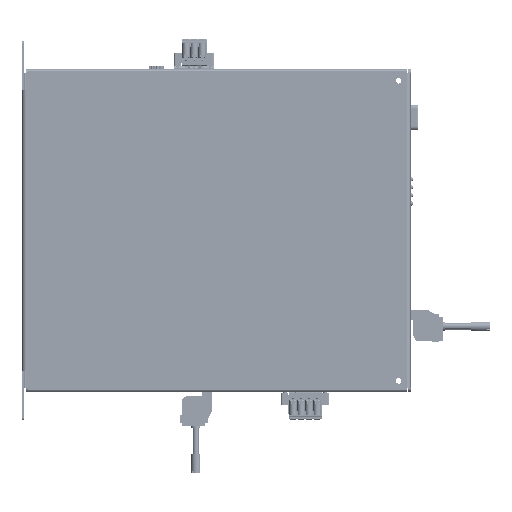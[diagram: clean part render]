
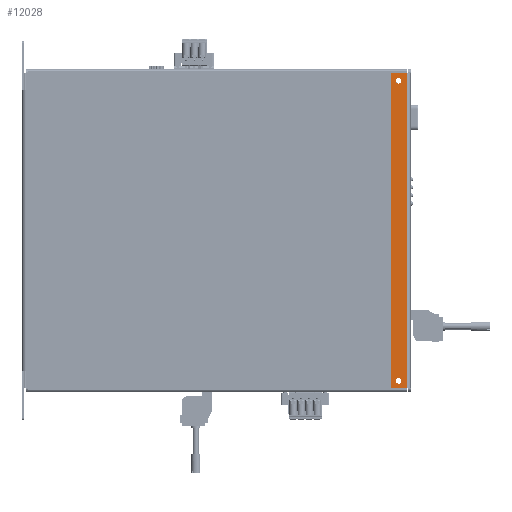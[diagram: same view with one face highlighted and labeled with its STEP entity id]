
A CAD part, left-side view. The second image highlights one B-rep face of the part: STEP entity #12028.
In plain terms, the highlighted planar face has unit normal (-1, 0, 0).
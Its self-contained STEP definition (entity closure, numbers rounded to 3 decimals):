
#7791 = CYLINDRICAL_SURFACE('',#7792,2.5);
#7792 = AXIS2_PLACEMENT_3D('',#7793,#7794,#7795);
#7793 = CARTESIAN_POINT('',(-70.5,1.,24.5));
#7794 = DIRECTION('',(0.,0.,1.));
#7795 = DIRECTION('',(0.,-1.,0.));
#11741 = VERTEX_POINT('',#11742);
#11742 = CARTESIAN_POINT('',(-73.,1.,24.5));
#11764 = EDGE_CURVE('',#11741,#11765,#11767,.T.);
#11765 = VERTEX_POINT('',#11766);
#11766 = CARTESIAN_POINT('',(-73.,1.,224.));
#11767 = SURFACE_CURVE('',#11768,(#11772,#11779),.PCURVE_S1.);
#11768 = LINE('',#11769,#11770);
#11769 = CARTESIAN_POINT('',(-73.,1.,24.5));
#11770 = VECTOR('',#11771,1.);
#11771 = DIRECTION('',(0.,0.,1.));
#11772 = PCURVE('',#7791,#11773);
#11773 = DEFINITIONAL_REPRESENTATION('',(#11774),#11778);
#11774 = LINE('',#11775,#11776);
#11775 = CARTESIAN_POINT('',(-1.571,0.));
#11776 = VECTOR('',#11777,1.);
#11777 = DIRECTION('',(-0.,1.));
#11778 = ( GEOMETRIC_REPRESENTATION_CONTEXT(2) 
PARAMETRIC_REPRESENTATION_CONTEXT() REPRESENTATION_CONTEXT('2D SPACE',''
  ) );
#11779 = PCURVE('',#11780,#11785);
#11780 = PLANE('',#11781);
#11781 = AXIS2_PLACEMENT_3D('',#11782,#11783,#11784);
#11782 = CARTESIAN_POINT('',(-73.,6.,124.25));
#11783 = DIRECTION('',(1.,0.,0.));
#11784 = DIRECTION('',(0.,0.,1.));
#11785 = DEFINITIONAL_REPRESENTATION('',(#11786),#11790);
#11786 = LINE('',#11787,#11788);
#11787 = CARTESIAN_POINT('',(-99.75,5.));
#11788 = VECTOR('',#11789,1.);
#11789 = DIRECTION('',(1.,0.));
#11790 = ( GEOMETRIC_REPRESENTATION_CONTEXT(2) 
PARAMETRIC_REPRESENTATION_CONTEXT() REPRESENTATION_CONTEXT('2D SPACE',''
  ) );
#11837 = PLANE('',#11838);
#11838 = AXIS2_PLACEMENT_3D('',#11839,#11840,#11841);
#11839 = CARTESIAN_POINT('',(-71.5,11.,224.));
#11840 = DIRECTION('',(0.,0.,1.));
#11841 = DIRECTION('',(0.,-1.,0.));
#11869 = PLANE('',#11870);
#11870 = AXIS2_PLACEMENT_3D('',#11871,#11872,#11873);
#11871 = CARTESIAN_POINT('',(-71.5,1.,24.5));
#11872 = DIRECTION('',(-0.,0.,-1.));
#11873 = DIRECTION('',(0.,1.,0.));
#11926 = PLANE('',#11927);
#11927 = AXIS2_PLACEMENT_3D('',#11928,#11929,#11930);
#11928 = CARTESIAN_POINT('',(-71.5,11.,24.5));
#11929 = DIRECTION('',(0.,1.,0.));
#11930 = DIRECTION('',(0.,0.,1.));
#11982 = CYLINDRICAL_SURFACE('',#11983,1.75);
#11983 = AXIS2_PLACEMENT_3D('',#11984,#11985,#11986);
#11984 = CARTESIAN_POINT('',(-73.,6.,29.));
#11985 = DIRECTION('',(-1.,0.,0.));
#11986 = DIRECTION('',(0.,-1.,0.));
#12017 = CYLINDRICAL_SURFACE('',#12018,1.75);
#12018 = AXIS2_PLACEMENT_3D('',#12019,#12020,#12021);
#12019 = CARTESIAN_POINT('',(-73.,6.,219.));
#12020 = DIRECTION('',(-1.,0.,0.));
#12021 = DIRECTION('',(0.,-1.,0.));
#12028 = ADVANCED_FACE('',(#12029,#12099,#12129),#11780,.F.);
#12029 = FACE_BOUND('',#12030,.F.);
#12030 = EDGE_LOOP('',(#12031,#12032,#12055,#12078));
#12031 = ORIENTED_EDGE('',*,*,#11764,.F.);
#12032 = ORIENTED_EDGE('',*,*,#12033,.T.);
#12033 = EDGE_CURVE('',#11741,#12034,#12036,.T.);
#12034 = VERTEX_POINT('',#12035);
#12035 = CARTESIAN_POINT('',(-73.,11.,24.5));
#12036 = SURFACE_CURVE('',#12037,(#12041,#12048),.PCURVE_S1.);
#12037 = LINE('',#12038,#12039);
#12038 = CARTESIAN_POINT('',(-73.,1.,24.5));
#12039 = VECTOR('',#12040,1.);
#12040 = DIRECTION('',(0.,1.,0.));
#12041 = PCURVE('',#11780,#12042);
#12042 = DEFINITIONAL_REPRESENTATION('',(#12043),#12047);
#12043 = LINE('',#12044,#12045);
#12044 = CARTESIAN_POINT('',(-99.75,5.));
#12045 = VECTOR('',#12046,1.);
#12046 = DIRECTION('',(0.,-1.));
#12047 = ( GEOMETRIC_REPRESENTATION_CONTEXT(2) 
PARAMETRIC_REPRESENTATION_CONTEXT() REPRESENTATION_CONTEXT('2D SPACE',''
  ) );
#12048 = PCURVE('',#11869,#12049);
#12049 = DEFINITIONAL_REPRESENTATION('',(#12050),#12054);
#12050 = LINE('',#12051,#12052);
#12051 = CARTESIAN_POINT('',(0.,-1.5));
#12052 = VECTOR('',#12053,1.);
#12053 = DIRECTION('',(1.,0.));
#12054 = ( GEOMETRIC_REPRESENTATION_CONTEXT(2) 
PARAMETRIC_REPRESENTATION_CONTEXT() REPRESENTATION_CONTEXT('2D SPACE',''
  ) );
#12055 = ORIENTED_EDGE('',*,*,#12056,.T.);
#12056 = EDGE_CURVE('',#12034,#12057,#12059,.T.);
#12057 = VERTEX_POINT('',#12058);
#12058 = CARTESIAN_POINT('',(-73.,11.,224.));
#12059 = SURFACE_CURVE('',#12060,(#12064,#12071),.PCURVE_S1.);
#12060 = LINE('',#12061,#12062);
#12061 = CARTESIAN_POINT('',(-73.,11.,24.5));
#12062 = VECTOR('',#12063,1.);
#12063 = DIRECTION('',(0.,0.,1.));
#12064 = PCURVE('',#11780,#12065);
#12065 = DEFINITIONAL_REPRESENTATION('',(#12066),#12070);
#12066 = LINE('',#12067,#12068);
#12067 = CARTESIAN_POINT('',(-99.75,-5.));
#12068 = VECTOR('',#12069,1.);
#12069 = DIRECTION('',(1.,0.));
#12070 = ( GEOMETRIC_REPRESENTATION_CONTEXT(2) 
PARAMETRIC_REPRESENTATION_CONTEXT() REPRESENTATION_CONTEXT('2D SPACE',''
  ) );
#12071 = PCURVE('',#11926,#12072);
#12072 = DEFINITIONAL_REPRESENTATION('',(#12073),#12077);
#12073 = LINE('',#12074,#12075);
#12074 = CARTESIAN_POINT('',(0.,-1.5));
#12075 = VECTOR('',#12076,1.);
#12076 = DIRECTION('',(1.,0.));
#12077 = ( GEOMETRIC_REPRESENTATION_CONTEXT(2) 
PARAMETRIC_REPRESENTATION_CONTEXT() REPRESENTATION_CONTEXT('2D SPACE',''
  ) );
#12078 = ORIENTED_EDGE('',*,*,#12079,.T.);
#12079 = EDGE_CURVE('',#12057,#11765,#12080,.T.);
#12080 = SURFACE_CURVE('',#12081,(#12085,#12092),.PCURVE_S1.);
#12081 = LINE('',#12082,#12083);
#12082 = CARTESIAN_POINT('',(-73.,11.,224.));
#12083 = VECTOR('',#12084,1.);
#12084 = DIRECTION('',(0.,-1.,0.));
#12085 = PCURVE('',#11780,#12086);
#12086 = DEFINITIONAL_REPRESENTATION('',(#12087),#12091);
#12087 = LINE('',#12088,#12089);
#12088 = CARTESIAN_POINT('',(99.75,-5.));
#12089 = VECTOR('',#12090,1.);
#12090 = DIRECTION('',(0.,1.));
#12091 = ( GEOMETRIC_REPRESENTATION_CONTEXT(2) 
PARAMETRIC_REPRESENTATION_CONTEXT() REPRESENTATION_CONTEXT('2D SPACE',''
  ) );
#12092 = PCURVE('',#11837,#12093);
#12093 = DEFINITIONAL_REPRESENTATION('',(#12094),#12098);
#12094 = LINE('',#12095,#12096);
#12095 = CARTESIAN_POINT('',(0.,-1.5));
#12096 = VECTOR('',#12097,1.);
#12097 = DIRECTION('',(1.,0.));
#12098 = ( GEOMETRIC_REPRESENTATION_CONTEXT(2) 
PARAMETRIC_REPRESENTATION_CONTEXT() REPRESENTATION_CONTEXT('2D SPACE',''
  ) );
#12099 = FACE_BOUND('',#12100,.F.);
#12100 = EDGE_LOOP('',(#12101));
#12101 = ORIENTED_EDGE('',*,*,#12102,.T.);
#12102 = EDGE_CURVE('',#12103,#12103,#12105,.T.);
#12103 = VERTEX_POINT('',#12104);
#12104 = CARTESIAN_POINT('',(-73.,4.25,29.));
#12105 = SURFACE_CURVE('',#12106,(#12111,#12122),.PCURVE_S1.);
#12106 = CIRCLE('',#12107,1.75);
#12107 = AXIS2_PLACEMENT_3D('',#12108,#12109,#12110);
#12108 = CARTESIAN_POINT('',(-73.,6.,29.));
#12109 = DIRECTION('',(-1.,0.,0.));
#12110 = DIRECTION('',(0.,-1.,0.));
#12111 = PCURVE('',#11780,#12112);
#12112 = DEFINITIONAL_REPRESENTATION('',(#12113),#12121);
#12113 = ( BOUNDED_CURVE() B_SPLINE_CURVE(2,(#12114,#12115,#12116,#12117
    ,#12118,#12119,#12120),.UNSPECIFIED.,.T.,.F.) 
B_SPLINE_CURVE_WITH_KNOTS((1,2,2,2,2,1),(-2.094,0.,
    2.094,4.189,6.283,8.378),
.UNSPECIFIED.) CURVE() GEOMETRIC_REPRESENTATION_ITEM() 
RATIONAL_B_SPLINE_CURVE((1.,0.5,1.,0.5,1.,0.5,1.)) REPRESENTATION_ITEM(
  '') );
#12114 = CARTESIAN_POINT('',(-95.25,1.75));
#12115 = CARTESIAN_POINT('',(-92.219,1.75));
#12116 = CARTESIAN_POINT('',(-93.734,-0.875));
#12117 = CARTESIAN_POINT('',(-95.25,-3.5));
#12118 = CARTESIAN_POINT('',(-96.766,-0.875));
#12119 = CARTESIAN_POINT('',(-98.281,1.75));
#12120 = CARTESIAN_POINT('',(-95.25,1.75));
#12121 = ( GEOMETRIC_REPRESENTATION_CONTEXT(2) 
PARAMETRIC_REPRESENTATION_CONTEXT() REPRESENTATION_CONTEXT('2D SPACE',''
  ) );
#12122 = PCURVE('',#11982,#12123);
#12123 = DEFINITIONAL_REPRESENTATION('',(#12124),#12128);
#12124 = LINE('',#12125,#12126);
#12125 = CARTESIAN_POINT('',(0.,0.));
#12126 = VECTOR('',#12127,1.);
#12127 = DIRECTION('',(1.,0.));
#12128 = ( GEOMETRIC_REPRESENTATION_CONTEXT(2) 
PARAMETRIC_REPRESENTATION_CONTEXT() REPRESENTATION_CONTEXT('2D SPACE',''
  ) );
#12129 = FACE_BOUND('',#12130,.F.);
#12130 = EDGE_LOOP('',(#12131));
#12131 = ORIENTED_EDGE('',*,*,#12132,.T.);
#12132 = EDGE_CURVE('',#12133,#12133,#12135,.T.);
#12133 = VERTEX_POINT('',#12134);
#12134 = CARTESIAN_POINT('',(-73.,4.25,219.));
#12135 = SURFACE_CURVE('',#12136,(#12141,#12152),.PCURVE_S1.);
#12136 = CIRCLE('',#12137,1.75);
#12137 = AXIS2_PLACEMENT_3D('',#12138,#12139,#12140);
#12138 = CARTESIAN_POINT('',(-73.,6.,219.));
#12139 = DIRECTION('',(-1.,0.,0.));
#12140 = DIRECTION('',(0.,-1.,0.));
#12141 = PCURVE('',#11780,#12142);
#12142 = DEFINITIONAL_REPRESENTATION('',(#12143),#12151);
#12143 = ( BOUNDED_CURVE() B_SPLINE_CURVE(2,(#12144,#12145,#12146,#12147
    ,#12148,#12149,#12150),.UNSPECIFIED.,.T.,.F.) 
B_SPLINE_CURVE_WITH_KNOTS((1,2,2,2,2,1),(-2.094,0.,
    2.094,4.189,6.283,8.378),
.UNSPECIFIED.) CURVE() GEOMETRIC_REPRESENTATION_ITEM() 
RATIONAL_B_SPLINE_CURVE((1.,0.5,1.,0.5,1.,0.5,1.)) REPRESENTATION_ITEM(
  '') );
#12144 = CARTESIAN_POINT('',(94.75,1.75));
#12145 = CARTESIAN_POINT('',(97.781,1.75));
#12146 = CARTESIAN_POINT('',(96.266,-0.875));
#12147 = CARTESIAN_POINT('',(94.75,-3.5));
#12148 = CARTESIAN_POINT('',(93.234,-0.875));
#12149 = CARTESIAN_POINT('',(91.719,1.75));
#12150 = CARTESIAN_POINT('',(94.75,1.75));
#12151 = ( GEOMETRIC_REPRESENTATION_CONTEXT(2) 
PARAMETRIC_REPRESENTATION_CONTEXT() REPRESENTATION_CONTEXT('2D SPACE',''
  ) );
#12152 = PCURVE('',#12017,#12153);
#12153 = DEFINITIONAL_REPRESENTATION('',(#12154),#12158);
#12154 = LINE('',#12155,#12156);
#12155 = CARTESIAN_POINT('',(0.,0.));
#12156 = VECTOR('',#12157,1.);
#12157 = DIRECTION('',(1.,0.));
#12158 = ( GEOMETRIC_REPRESENTATION_CONTEXT(2) 
PARAMETRIC_REPRESENTATION_CONTEXT() REPRESENTATION_CONTEXT('2D SPACE',''
  ) );
